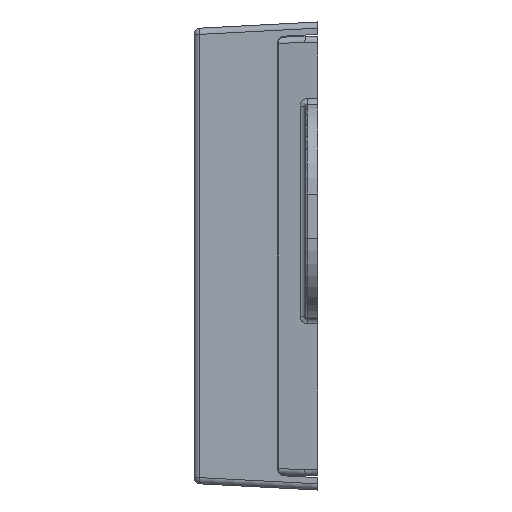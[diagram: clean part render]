
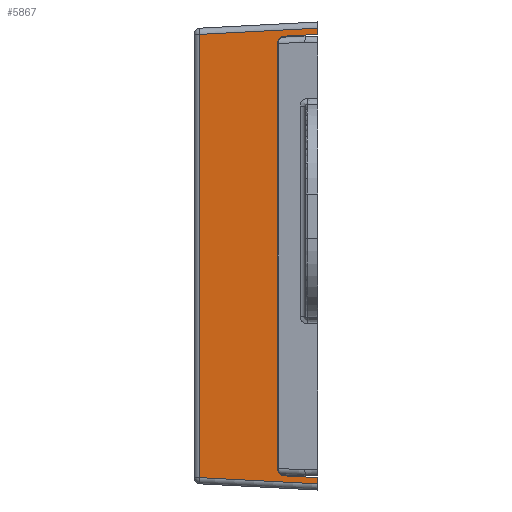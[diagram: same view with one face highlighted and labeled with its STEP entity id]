
A CAD part, left-side view. The second image highlights one B-rep face of the part: STEP entity #5867.
In plain terms, the highlighted planar face has unit normal (-0.999, 0.052, 0).
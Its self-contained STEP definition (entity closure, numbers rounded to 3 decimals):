
#813 = VECTOR ( 'NONE', #28774, 1000. ) ;
#997 = DIRECTION ( 'NONE',  ( -0.052, -0.999, 0. ) ) ;
#1279 = VECTOR ( 'NONE', #28669, 1000. ) ;
#2472 = LINE ( 'NONE', #21214, #26764 ) ;
#3234 = ORIENTED_EDGE ( 'NONE', *, *, #14958, .T. ) ;
#3942 = VERTEX_POINT ( 'NONE', #35220 ) ;
#4136 = DIRECTION ( 'NONE',  ( -0.052, -0.997, -0.052 ) ) ;
#4314 = VECTOR ( 'NONE', #30074, 1000. ) ;
#4357 = CARTESIAN_POINT ( 'NONE',  ( -34.156, 39.579, 2.015 ) ) ;
#5867 = ADVANCED_FACE ( 'NONE', ( #12874 ), #15502, .T. ) ;
#6362 = CARTESIAN_POINT ( 'NONE',  ( -36.233, -0.052, 36.754 ) ) ;
#6649 = EDGE_CURVE ( 'NONE', #28003, #29016, #31704, .T. ) ;
#6850 = DIRECTION ( 'NONE',  ( -0.999, 0.052, 0. ) ) ;
#7038 = VECTOR ( 'NONE', #30944, 1000. ) ;
#7562 = ORIENTED_EDGE ( 'NONE', *, *, #25570, .T. ) ;
#7569 = EDGE_LOOP ( 'NONE', ( #37274, #3234, #9454, #37211, #13118, #29230, #7562, #15805, #30076, #7872 ) ) ;
#7583 = EDGE_CURVE ( 'NONE', #20393, #16804, #14226, .T. ) ;
#7587 = CARTESIAN_POINT ( 'NONE',  ( -36.026, 3.883, -36.548 ) ) ;
#7872 = ORIENTED_EDGE ( 'NONE', *, *, #11213, .T. ) ;
#7921 = VERTEX_POINT ( 'NONE', #15804 ) ;
#9158 = VERTEX_POINT ( 'NONE', #31161 ) ;
#9442 = EDGE_CURVE ( 'NONE', #3942, #20393, #2472, .T. ) ;
#9454 = ORIENTED_EDGE ( 'NONE', *, *, #9442, .T. ) ;
#10055 = EDGE_CURVE ( 'NONE', #34969, #9158, #13570, .T. ) ;
#10104 = DIRECTION ( 'NONE',  ( -0.037, -0.707, 0.707 ) ) ;
#11213 = EDGE_CURVE ( 'NONE', #25884, #34969, #33992, .T. ) ;
#11519 = EDGE_CURVE ( 'NONE', #29016, #25884, #21610, .T. ) ;
#12874 = FACE_OUTER_BOUND ( 'NONE', #7569, .T. ) ;
#13118 = ORIENTED_EDGE ( 'NONE', *, *, #23594, .T. ) ;
#13570 = LINE ( 'NONE', #35768, #28218 ) ;
#14226 = LINE ( 'NONE', #29359, #34503 ) ;
#14958 = EDGE_CURVE ( 'NONE', #9158, #3942, #17027, .T. ) ;
#15502 = PLANE ( 'NONE',  #17395 ) ;
#15805 = ORIENTED_EDGE ( 'NONE', *, *, #6649, .T. ) ;
#15804 = CARTESIAN_POINT ( 'NONE',  ( -35.884, 6.6, 34.654 ) ) ;
#16804 = VERTEX_POINT ( 'NONE', #37135 ) ;
#17027 = LINE ( 'NONE', #7587, #31730 ) ;
#17395 = AXIS2_PLACEMENT_3D ( 'NONE', #18717, #6850, #997 ) ;
#18115 = EDGE_CURVE ( 'NONE', #36173, #7921, #20788, .T. ) ;
#18717 = CARTESIAN_POINT ( 'NONE',  ( -36.23, 0., 37.75 ) ) ;
#19869 = LINE ( 'NONE', #4357, #813 ) ;
#20393 = VERTEX_POINT ( 'NONE', #23304 ) ;
#20788 = LINE ( 'NONE', #30667, #4314 ) ;
#21214 = CARTESIAN_POINT ( 'NONE',  ( -36.23, 0., 37.75 ) ) ;
#21610 = LINE ( 'NONE', #34136, #27664 ) ;
#22812 = CARTESIAN_POINT ( 'NONE',  ( -36.235, -0.104, 35.755 ) ) ;
#23304 = CARTESIAN_POINT ( 'NONE',  ( -36.23, 0., -35.75 ) ) ;
#23594 = EDGE_CURVE ( 'NONE', #16804, #36173, #19869, .T. ) ;
#25446 = LINE ( 'NONE', #37740, #33683 ) ;
#25570 = EDGE_CURVE ( 'NONE', #7921, #28003, #25446, .T. ) ;
#25749 = DIRECTION ( 'NONE',  ( 0.052, 0.997, 0.052 ) ) ;
#25884 = VERTEX_POINT ( 'NONE', #31245 ) ;
#26720 = DIRECTION ( 'NONE',  ( 0., 0., 1. ) ) ;
#26764 = VECTOR ( 'NONE', #26720, 1000. ) ;
#27664 = VECTOR ( 'NONE', #37347, 1000. ) ;
#28003 = VERTEX_POINT ( 'NONE', #38175 ) ;
#28218 = VECTOR ( 'NONE', #28712, 1000. ) ;
#28669 = DIRECTION ( 'NONE',  ( -0.052, -0.997, 0.052 ) ) ;
#28712 = DIRECTION ( 'NONE',  ( 0., 0., -1. ) ) ;
#28774 = DIRECTION ( 'NONE',  ( 0.035, 0.669, 0.743 ) ) ;
#29016 = VERTEX_POINT ( 'NONE', #36854 ) ;
#29230 = ORIENTED_EDGE ( 'NONE', *, *, #18115, .T. ) ;
#29359 = CARTESIAN_POINT ( 'NONE',  ( -36.029, 3.831, -35.549 ) ) ;
#30074 = DIRECTION ( 'NONE',  ( 0., 0., 1. ) ) ;
#30076 = ORIENTED_EDGE ( 'NONE', *, *, #11519, .T. ) ;
#30667 = CARTESIAN_POINT ( 'NONE',  ( -35.884, 6.6, 37.75 ) ) ;
#30944 = DIRECTION ( 'NONE',  ( 0.052, 0.997, -0.052 ) ) ;
#31161 = CARTESIAN_POINT ( 'NONE',  ( -35.232, 19.052, -35.753 ) ) ;
#31245 = CARTESIAN_POINT ( 'NONE',  ( -36.23, 0., 36.751 ) ) ;
#31704 = LINE ( 'NONE', #22812, #1279 ) ;
#31730 = VECTOR ( 'NONE', #4136, 1000. ) ;
#33683 = VECTOR ( 'NONE', #10104, 1000. ) ;
#33992 = LINE ( 'NONE', #6362, #7038 ) ;
#34136 = CARTESIAN_POINT ( 'NONE',  ( -36.23, 0., 37.75 ) ) ;
#34503 = VECTOR ( 'NONE', #25749, 1000. ) ;
#34969 = VERTEX_POINT ( 'NONE', #38607 ) ;
#35220 = CARTESIAN_POINT ( 'NONE',  ( -36.23, 0., -36.751 ) ) ;
#35768 = CARTESIAN_POINT ( 'NONE',  ( -35.232, 19.052, -36.702 ) ) ;
#36173 = VERTEX_POINT ( 'NONE', #36223 ) ;
#36223 = CARTESIAN_POINT ( 'NONE',  ( -35.884, 6.6, -34.612 ) ) ;
#36854 = CARTESIAN_POINT ( 'NONE',  ( -36.23, 0., 35.75 ) ) ;
#37135 = CARTESIAN_POINT ( 'NONE',  ( -35.923, 5.851, -35.443 ) ) ;
#37211 = ORIENTED_EDGE ( 'NONE', *, *, #7583, .T. ) ;
#37274 = ORIENTED_EDGE ( 'NONE', *, *, #10055, .T. ) ;
#37347 = DIRECTION ( 'NONE',  ( 0., 0., 1. ) ) ;
#37740 = CARTESIAN_POINT ( 'NONE',  ( -36.138, 1.75, 39.504 ) ) ;
#38175 = CARTESIAN_POINT ( 'NONE',  ( -35.926, 5.809, 35.446 ) ) ;
#38607 = CARTESIAN_POINT ( 'NONE',  ( -35.232, 19.052, 35.753 ) ) ;
